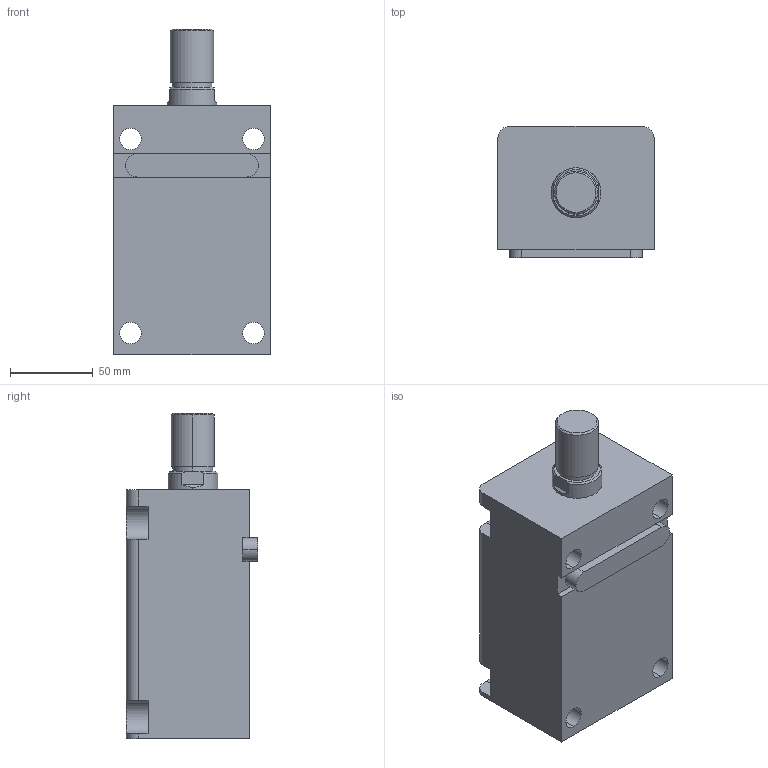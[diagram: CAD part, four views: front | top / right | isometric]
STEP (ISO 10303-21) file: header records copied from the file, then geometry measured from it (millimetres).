
FILE_DESCRIPTION (( 'STEP AP203' ), '1' );
FILE_NAME ('HTB-LA50-90W.STEP', '2019-10-09T07:13:41', ( '微软用户' ), ( '微软中国' ), 'SwSTEP 2.0', 'SolidWorks 2012', '' );
FILE_SCHEMA (( 'CONFIG_CONTROL_DESIGN' ));
Length unit declared in the file: millimetre
Products named in the file (4): HTB-LA50-90W; HTB-LA50-瑩; HTB-LA50-90W活塞杆; HTB-LA50-90掛极
Assembly tree (3 placements, depth 2):
  HTB-LA50-90W
    HTB-LA50-90掛极
    HTB-LA50-90W活塞杆
    HTB-LA50-瑩
Bounding box: 94 x 79 x 196 mm (x, y, z)
Volume: 904665.1 mm3; surface area: 124153.4 mm2
Topology: 3 solids, 3 shells, 90 faces, 219 edges, 144 vertices
Faces by surface type: plane 41, cylinder 37, cone 8, torus 4
Entity records: 3107 total; most frequent: DIRECTION 497, CARTESIAN_POINT 487, ORIENTED_EDGE 438, EDGE_CURVE 219, AXIS2_PLACEMENT_3D 190, VERTEX_POINT 144, LINE 117, VECTOR 117
